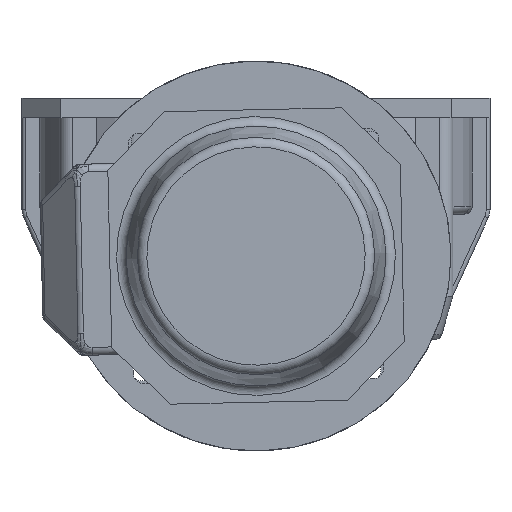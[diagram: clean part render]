
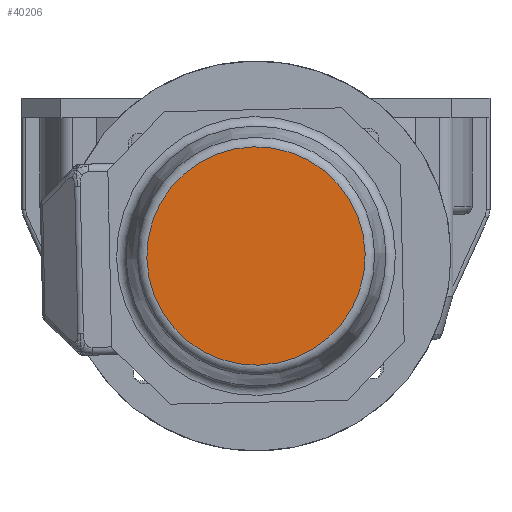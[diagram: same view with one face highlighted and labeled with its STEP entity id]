
A CAD part, front view. The second image highlights one B-rep face of the part: STEP entity #40206.
In plain terms, the highlighted planar face has unit normal (0, -1, 0) as drawn and (1, 0, 0) by its records, which use the part's own axes.
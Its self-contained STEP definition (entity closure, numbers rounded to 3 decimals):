
#40183=CARTESIAN_POINT('',(265.0,0.0,55.983));
#40184=VERTEX_POINT('',#40183);
#40185=CARTESIAN_POINT('',(265.0,0.0,0.0));
#40186=DIRECTION('',(-1.0,0.0,0.0));
#40187=DIRECTION('',(0.0,0.0,-1.0));
#40188=AXIS2_PLACEMENT_3D('',#40185,#40186,#40187);
#40189=CIRCLE('',#40188,55.983);
#40190=EDGE_CURVE('',#40184,#40184,#40189,.T.);
#40198=CARTESIAN_POINT('',(265.0,0.0,30.0));
#40199=DIRECTION('',(1.0,0.0,0.0));
#40200=DIRECTION('',(0.0,0.0,-1.0));
#40201=AXIS2_PLACEMENT_3D('',#40198,#40199,#40200);
#40202=PLANE('',#40201);
#40203=ORIENTED_EDGE('',*,*,#40190,.F.);
#40204=EDGE_LOOP('',(#40203));
#40205=FACE_OUTER_BOUND('',#40204,.T.);
#40206=ADVANCED_FACE('',(#40205),#40202,.T.);
